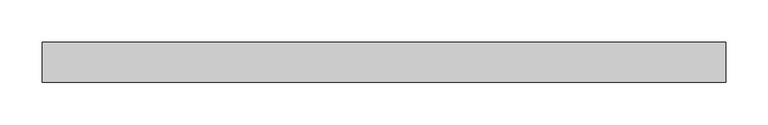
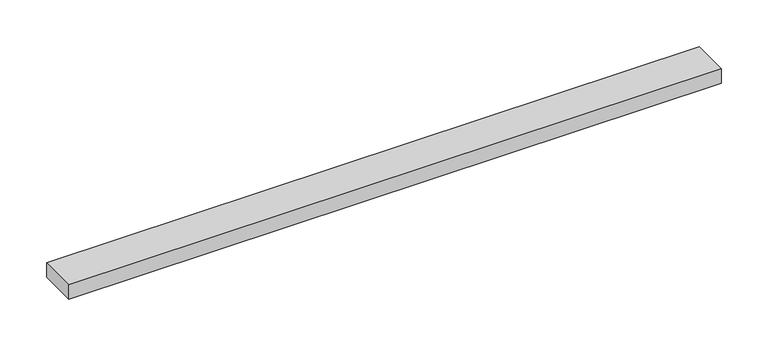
"""IFC4 building model written with IfcOpenShell, lengths in millimetres: proxy geometry, DATUM^OFFICES_CENTER DRAWER-32in DRAWER FRT."""

from ifc_helpers import new_model, si_unit, origin, origin_with_axes, place, context, project, spatial, polyline, outline, extrude, source, transform, mapped, element, save


def generic_models_661458be(model_context):
    return source(origin(), model_context, "Body", "SweptSolid", [
        extrude(outline(polyline([(809.625, 47.625), (809.625, 0.0), (0.0, 0.0), (0.0, 47.625), (809.625, 47.625)])), origin_with_axes(), (0.0, 0.0, 1.0), 19.05),
    ])


if __name__ == "__main__":
    model = new_model("IFC4")
    model_context = context("Model", 3, world=origin())
    ifc_project = project(units=[si_unit("LENGTHUNIT", "METRE", prefix="MILLI")], contexts=[model_context])
    site = spatial("IfcSite", under=ifc_project)
    building = spatial("IfcBuilding", under=site)
    placement = place(None, origin())
    generic_models_shape = generic_models_661458be(model_context)
    element("IfcBuildingElementProxy", 1, Name="DATUM^OFFICES_CENTER DRAWER-32in DRAWER FRT", ObjectType="DATUM^OFFICES_CENTER DRAWER-32in DRAWER FRT", at=placement, inside=building, context=model_context, shape_type="MappedRepresentation", body=[
        mapped(generic_models_shape, transform((0.0, 0.0, 0.0), x_axis=(1.0, 0.0, 0.0), y_axis=(0.0, 1.0, 0.0), z_axis=(0.0, 0.0, 1.0))),
    ])
    save(model, "model.ifc")
